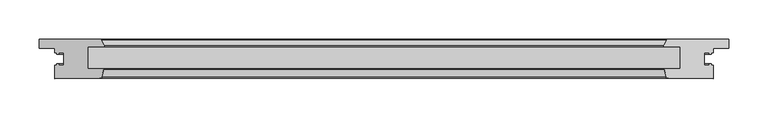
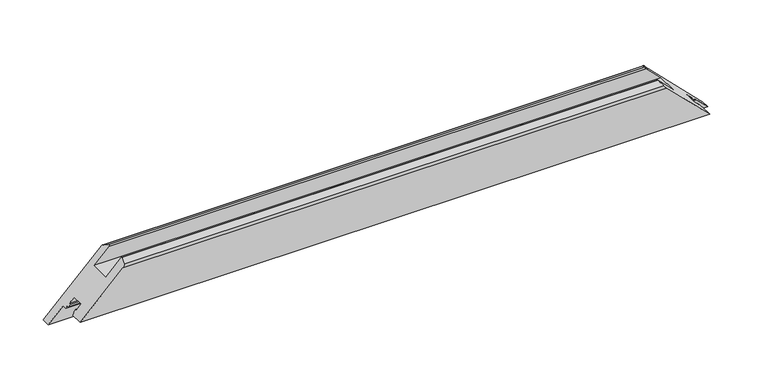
"""IFC4 building model written with IfcOpenShell, lengths in millimetres: proxy geometry, Weiku - Montante - Folha 02.2.01.017 : Weiku - Montante - Folha 02.2.01.017."""

import ifcopenshell
import ifcopenshell.guid

model = None  # the IFC model being written
_history = None  # IfcOwnerHistory: only IFC2X3 demands one
_inside = {}  # id of a spatial element -> (the spatial element, [elements in it])
_under = {}  # id of a project, library or spatial element -> (it, [spatial elements below it])
_declared = {}  # id of a project -> (the project, [libraries it declares])
_typed = {}  # id of a type object -> (the type object, [elements of that type])
_made_of = {}  # id of a material, layer set ... -> (it, [elements and type objects made of it])


def new_model(schema):
    """Start an empty IFC model of exactly this schema.

    Asked for "IFC4X3", IfcOpenShell would pick the latest addendum, in which some entities
    have other attributes; the version numbers below select the first issue.
    IFC2X3 requires an IfcOwnerHistory on every rooted entity: one is made here for all.
    """
    global model, _history
    if schema == "IFC4X3":
        model = ifcopenshell.file(schema_version=(4, 3, 0, 0))
    else:
        model = ifcopenshell.file(schema=schema)
    _inside.clear()
    _under.clear()
    _declared.clear()
    _typed.clear()
    _made_of.clear()
    _history = None
    if model.schema == "IFC2X3":
        org = make("IfcOrganization", Name="unknown")
        user = make(
            "IfcPersonAndOrganization",
            ThePerson=make("IfcPerson", FamilyName="unknown"),
            TheOrganization=org,
        )
        app = make(
            "IfcApplication",
            ApplicationDeveloper=org,
            Version="unknown",
            ApplicationFullName="unknown",
            ApplicationIdentifier="unknown",
        )
        _history = make(
            "IfcOwnerHistory",
            OwningUser=user,
            OwningApplication=app,
            ChangeAction="ADDED",
            CreationDate=0,
        )
    return model


def make(cls, **values):
    """One entity of the class cls with the attributes given. An attribute that is None is left unset."""
    return model.create_entity(
        cls, **{name: value for name, value in values.items() if value is not None}
    )


def rooted(cls, **values):
    """An entity with a GlobalId (a new one), such as an element, a storey or a relation."""
    return make(cls, GlobalId=ifcopenshell.guid.new(), OwnerHistory=_history, **values)


def si_unit(unit_type, name, prefix=None):
    """IfcSIUnit, for example si_unit("LENGTHUNIT", "METRE", prefix="MILLI")."""
    return make("IfcSIUnit", UnitType=unit_type, Prefix=prefix, Name=name)


def assignment(units):
    """IfcUnitAssignment: the units of a project."""
    return None if units is None else make("IfcUnitAssignment", Units=units)


def point(xyz):
    """IfcCartesianPoint."""
    return None if xyz is None else make("IfcCartesianPoint", Coordinates=xyz)


def direction(xyz):
    """IfcDirection."""
    return None if xyz is None else make("IfcDirection", DirectionRatios=xyz)


def frame(location, z_axis=None, x_axis=None):
    """IfcAxis2Placement3D, a coordinate frame: its origin and axes. An axis left out is left unset."""
    return make(
        "IfcAxis2Placement3D",
        Location=point(location),
        Axis=direction(z_axis),
        RefDirection=direction(x_axis),
    )


def origin():
    """The frame at (0, 0, 0) with its axes left unset."""
    return frame((0.0, 0.0, 0.0))


def place(relative_to, where):
    """IfcLocalPlacement: puts the frame where relative to a parent placement (None: the world)."""
    return make(
        "IfcLocalPlacement", PlacementRelTo=relative_to, RelativePlacement=where
    )


def context(
    kind, dimensions, precision=None, world=None, true_north=None, identifier=None
):
    """IfcGeometricRepresentationContext, for example the 3D "Model" context."""
    return make(
        "IfcGeometricRepresentationContext",
        ContextIdentifier=identifier,
        ContextType=kind,
        CoordinateSpaceDimension=dimensions,
        Precision=precision,
        WorldCoordinateSystem=world,
        TrueNorth=true_north,
    )


def project(units=None, contexts=None):
    """IfcProject with its units and contexts."""
    return rooted(
        "IfcProject",
        Name="project",
        RepresentationContexts=contexts,
        UnitsInContext=assignment(units),
    )


def spatial(cls, under=None, at=None, **own):
    """A site, building, storey or space (cls), placed at a placement, below another one or the project."""
    s = rooted(cls, ObjectPlacement=at, **own)
    if under is not None:
        _under.setdefault(under.id(), (under, []))[1].append(s)
    return s


def ellipse_curve(where, semi_axis1, semi_axis2):
    """IfcEllipse in the frame where."""
    return make(
        "IfcEllipse", Position=where, SemiAxis1=semi_axis1, SemiAxis2=semi_axis2
    )


def shape(context_of_items, identifier, shape_type, items):
    """IfcShapeRepresentation: the items that make up one representation, for example the "Body"."""
    return make(
        "IfcShapeRepresentation",
        ContextOfItems=context_of_items,
        RepresentationIdentifier=identifier,
        RepresentationType=shape_type,
        Items=items,
    )


def source(mapping_origin, context_of_items, identifier, shape_type, items):
    """IfcRepresentationMap: a shape defined once, which mapped items show again and again."""
    return make(
        "IfcRepresentationMap",
        MappingOrigin=mapping_origin,
        MappedRepresentation=shape(context_of_items, identifier, shape_type, items),
    )


def transform(
    local_origin,
    x_axis=None,
    y_axis=None,
    z_axis=None,
    scale=None,
    scale2=None,
    scale3=None,
    uniform=True,
):
    """IfcCartesianTransformationOperator3D, or its non-uniform kind. x_axis, y_axis, z_axis: its Axis1, 2, 3."""
    if uniform:
        return make(
            "IfcCartesianTransformationOperator3D",
            Axis1=direction(x_axis),
            Axis2=direction(y_axis),
            LocalOrigin=point(local_origin),
            Scale=scale,
            Axis3=direction(z_axis),
        )
    return make(
        "IfcCartesianTransformationOperator3DnonUniform",
        Axis1=direction(x_axis),
        Axis2=direction(y_axis),
        LocalOrigin=point(local_origin),
        Scale=scale,
        Axis3=direction(z_axis),
        Scale2=scale2,
        Scale3=scale3,
    )


def mapped(mapping_source, mapping_target):
    """IfcMappedItem: shows the shape of a source again, moved by a transform."""
    return make(
        "IfcMappedItem", MappingSource=mapping_source, MappingTarget=mapping_target
    )


def made_of(thing, what):
    """Note that an element or type object is made of a material, layer set ...; save() writes the relation."""
    if what is not None:
        _made_of.setdefault(what.id(), (what, []))[1].append(thing)
    return thing


def element(
    cls,
    number,
    at=None,
    inside=None,
    cuts=None,
    type_object=None,
    material=None,
    context=None,
    identifier="Body",
    shape_type=None,
    held_by="IfcProductDefinitionShape",
    body=None,
    shapes=None,
    **own,
):
    """One element of the class cls, such as IfcWall. Its Tag is "e" and its number.

    at: its placement. inside: the storey or other place that contains it. cuts: it is an
    opening in that element (IfcRelVoidsElement). A single representation is given by context,
    identifier, shape_type and body (its items); several are given by shapes. held_by: the class
    of the entity that holds the representations. save() writes the other relations.
    """
    e = rooted(cls, Tag="e%d" % number, ObjectPlacement=at, **own)
    if body is not None:
        shapes = [shape(context, identifier, shape_type, body)]
    if shapes is not None:
        e.Representation = make(held_by, Representations=shapes)
    if inside is not None:
        _inside.setdefault(inside.id(), (inside, []))[1].append(e)
    if cuts is not None:
        rooted(
            "IfcRelVoidsElement", RelatingBuildingElement=cuts, RelatedOpeningElement=e
        )
    if type_object is not None:
        _typed.setdefault(type_object.id(), (type_object, []))[1].append(e)
    return made_of(e, material)


def aggregate(whole, parts):
    """IfcRelAggregates: a whole, such as a stair, and the parts it consists of."""
    return rooted("IfcRelAggregates", RelatingObject=whole, RelatedObjects=parts)


def save(model, path):
    """Write the relations noted so far, then the file.

    IfcRelAggregates (storeys below a building ...), IfcRelContainedInSpatialStructure (elements
    in a storey), IfcRelDefinesByType, IfcRelAssociatesMaterial and IfcRelDeclares: one each for
    every whole, place, type object, material and project.
    """
    for whole, parts in _under.values():
        aggregate(whole, parts)
    for where, things in _inside.values():
        rooted(
            "IfcRelContainedInSpatialStructure",
            RelatedElements=things,
            RelatingStructure=where,
        )
    for kind, things in _typed.values():
        rooted("IfcRelDefinesByType", RelatedObjects=things, RelatingType=kind)
    for what, things in _made_of.values():
        rooted("IfcRelAssociatesMaterial", RelatedObjects=things, RelatingMaterial=what)
    for by, libraries in _declared.values():
        rooted("IfcRelDeclares", RelatingContext=by, RelatedDefinitions=libraries)
    model.write(path)


def plane_surface(at):
    """IfcPlane: the flat surface through the origin of the frame at, square to its z axis."""
    return make("IfcPlane", Position=at)


def cylinder_surface(at, radius):
    """IfcCylindricalSurface: all points at the distance radius from the z axis of the frame at."""
    return make("IfcCylindricalSurface", Position=at, Radius=radius)


def advanced_brep(points, edges, surfaces, faces):
    """IfcAdvancedBrep: a solid bounded by faces that lie on surfaces and meet in shared edges.

    An edge is (start, end): straight between two places in points (the first is 0);
    or (start, end, curve); or (start, end, curve, False) where it runs against its curve.
    A face is (place in surfaces, loops), or (place, loops, False) where it looks against
    its surface's normal. A loop lists edges by number (the first is 1), with a minus sign
    where the edge is run from its end to its start. The first loop is the outer one.
    """
    corners = [point(p) for p in points]
    vertices = [make("IfcVertexPoint", VertexGeometry=c) for c in corners]
    made = []
    for start, end, *more in edges:
        made.append(
            make(
                "IfcEdgeCurve",
                EdgeStart=vertices[start],
                EdgeEnd=vertices[end],
                EdgeGeometry=more[0] if more else make("IfcPolyline", Points=[corners[start], corners[end]]),
                SameSense=more[1] if len(more) > 1 else True,
            )
        )
    hull = []
    for where, loops, *sense in faces:
        bounds = []
        for j, loop in enumerate(loops):
            ring = [make("IfcOrientedEdge", EdgeElement=made[abs(k) - 1], Orientation=k > 0) for k in loop]
            bounds.append(
                make(
                    "IfcFaceOuterBound" if j == 0 else "IfcFaceBound",
                    Bound=make("IfcEdgeLoop", EdgeList=ring),
                    Orientation=True,
                )
            )
        hull.append(make("IfcAdvancedFace", Bounds=bounds, FaceSurface=surfaces[where], SameSense=sense[0] if sense else True))
    return make("IfcAdvancedBrep", Outer=make("IfcClosedShell", CfsFaces=hull))


def generic_models_b2a0b80b(model_context):
    return source(origin(), model_context, "Body", "AdvancedBrep", [
        advanced_brep(
        [(-419.1818182, -50.0, 20.0), (419.1818182, -50.0, 20.0), (362.1815514, -50.0, 77.0002668), (-362.1815514, -50.0, 77.0002668), (-439.1818182, 0.0, 0.0), (-361.1690446, 0.0, 78.0127736), (361.1690446, 0.0, 78.0127736), (439.1818182, 0.0, 0.0), (-359.2837739, -47.7764571, 79.8980443), (-356.6988553, -38.1294095, 82.4829629), (-357.1818182, -37.5, 82.0), (-377.6818182, -37.5, 61.5), (-377.6818182, -9.5, 61.5), (-357.8952467, -9.5, 81.2865715), (-356.7330978, -7.617411, 82.4487204), (-360.2750839, -0.5518546, 78.9067343), (-439.1818182, -11.5, 0.0), (-419.1818182, -11.5, 20.0), (-419.1818182, -16.9, 20.0), (-416.9818182, -16.9, 22.2), (-416.9818182, -18.9, 22.2), (-414.1818182, -18.9, 25.0), (-414.1818182, -16.9, 25.0), (-407.6818182, -16.9, 31.5), (-407.6818182, -33.1, 31.5), (-414.1818182, -33.1, 25.0), (-414.1818182, -31.1, 25.0), (-416.9818182, -31.1, 22.2), (-416.9818182, -33.1, 22.2), (-419.1818182, -33.1, 20.0), (419.1818182, -33.1, 20.0), (416.9818182, -33.1, 22.2), (416.9818182, -31.1, 22.2), (414.1818182, -31.1, 25.0), (414.1818182, -33.1, 25.0), (407.6818182, -33.1, 31.5), (407.6818182, -16.9, 31.5), (414.1818182, -16.9, 25.0), (414.1818182, -18.9, 25.0), (416.9818182, -18.9, 22.2), (416.9818182, -16.9, 22.2), (419.1818182, -16.9, 20.0), (419.1818182, -11.5, 20.0), (439.1818182, -11.5, 0.0), (360.2750839, -0.5518546, 78.9067343), (356.7330978, -7.617411, 82.4487204), (357.8952467, -9.5, 81.2865715), (377.6818182, -9.5, 61.5), (377.6818182, -37.5, 61.5), (357.1818182, -37.5, 82.0), (356.6988553, -38.1294095, 82.4829629), (359.2837739, -47.7764571, 79.8980443)],
        [
            (0, 1),
            (1, 2),
            (2, 3),
            (3, 0),
            (4, 5),
            (5, 6),
            (6, 7),
            (7, 4),
            (3, 8, ellipse_curve(frame((-362.1815514, -47.0, 77.0002668), z_axis=(-0.7071067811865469, 0.0, 0.7071067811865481), x_axis=(-0.7071067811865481, 0.0, -0.7071067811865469)), 4.2426407, 3.0)),
            (8, 9),
            (9, 10, ellipse_curve(frame((-357.1818182, -38.0, 82.0), z_axis=(-0.7071067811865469, 0.0, 0.7071067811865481), x_axis=(-0.7071067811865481, 0.0, -0.7071067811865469)), 0.7071068, 0.5)),
            (10, 11),
            (11, 12),
            (12, 13),
            (13, 14, ellipse_curve(frame((-357.8952467, -8.2, 81.2865715), z_axis=(-0.7071067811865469, 0.0, 0.7071067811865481), x_axis=(-0.7071067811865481, 0.0, -0.7071067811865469)), 1.8384776, 1.3)),
            (14, 15),
            (15, 5, ellipse_curve(frame((-361.1690446, -1.0, 78.0127736), z_axis=(-0.7071067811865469, 0.0, 0.7071067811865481), x_axis=(-0.7071067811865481, 0.0, -0.7071067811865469)), 1.4142136, 1.0)),
            (4, 16),
            (16, 17),
            (17, 18),
            (18, 19),
            (19, 20),
            (20, 21),
            (21, 22),
            (22, 23),
            (23, 24),
            (24, 25),
            (25, 26),
            (26, 27),
            (27, 28),
            (28, 29),
            (29, 0),
            (1, 30),
            (30, 31),
            (31, 32),
            (32, 33),
            (33, 34),
            (34, 35),
            (35, 36),
            (36, 37),
            (37, 38),
            (38, 39),
            (39, 40),
            (40, 41),
            (41, 42),
            (42, 43),
            (43, 7),
            (6, 44, ellipse_curve(frame((361.1690446, -1.0, 78.0127736), z_axis=(0.7071067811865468, 0.0, 0.7071067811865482), x_axis=(-0.7071067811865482, 0.0, 0.7071067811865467)), 1.4142136, 1.0)),
            (44, 45),
            (45, 46, ellipse_curve(frame((357.8952467, -8.2, 81.2865715), z_axis=(0.7071067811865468, 0.0, 0.7071067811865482), x_axis=(-0.7071067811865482, 0.0, 0.7071067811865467)), 1.8384776, 1.3)),
            (46, 47),
            (47, 48),
            (48, 49),
            (49, 50, ellipse_curve(frame((357.1818182, -38.0, 82.0), z_axis=(0.7071067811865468, 0.0, 0.7071067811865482), x_axis=(-0.7071067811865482, 0.0, 0.7071067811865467)), 0.7071068, 0.5)),
            (50, 51),
            (51, 2, ellipse_curve(frame((362.1815514, -47.0, 77.0002668), z_axis=(0.7071067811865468, 0.0, 0.7071067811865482), x_axis=(-0.7071067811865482, 0.0, 0.7071067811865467)), 4.2426407, 3.0)),
            (15, 44),
            (14, 45),
            (13, 46),
            (12, 47),
            (11, 48),
            (10, 49),
            (9, 50),
            (8, 51),
            (29, 30),
            (28, 31),
            (27, 32),
            (26, 33),
            (25, 34),
            (24, 35),
            (23, 36),
            (22, 37),
            (21, 38),
            (20, 39),
            (19, 40),
            (18, 41),
            (17, 42),
            (16, 43),
        ],
        [
            plane_surface(frame((-439.1818182, -50.0, 77.0002668), z_axis=(0.0, -1.0, 0.0), x_axis=(1.0, 0.0, 0.0))),
            plane_surface(frame((-439.1818182, 0.0, 0.0), z_axis=(0.0, 1.0, 0.0), x_axis=(1.0, 0.0, 0.0))),
            plane_surface(frame((-467.4660894, 0.0, -28.2842712), z_axis=(-0.7071067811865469, 0.0, 0.7071067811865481), x_axis=(0.0, -1.0, 0.0))),
            plane_surface(frame((349.1818182, 0.0, 90.0), z_axis=(0.7071067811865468, 0.0, 0.7071067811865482), x_axis=(0.0, -1.0, 0.0))),
            cylinder_surface(frame((-439.1818182, -1.0, 78.0127736), z_axis=(-1.0, 0.0, 0.0), x_axis=(0.0, -1.0, 0.0)), 1.0),
            plane_surface(frame((-439.1818182, -0.5518546, 78.9067343), z_axis=(0.0, 0.4481453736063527, 0.8939606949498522), x_axis=(1.0, 0.0, 0.0))),
            cylinder_surface(frame((-439.1818182, -8.2, 81.2865715), z_axis=(-1.0, 0.0, 0.0), x_axis=(0.0, -1.0, 0.0)), 1.3),
            plane_surface(frame((-439.1818182, -9.5, 81.2865715), z_axis=(0.0, -1.0, 0.0), x_axis=(1.0, 0.0, 0.0))),
            plane_surface(frame((-439.1818182, -9.5, 61.5), z_axis=(0.0, 0.0, 1.0), x_axis=(1.0, 0.0, 0.0))),
            plane_surface(frame((-439.1818182, -37.5, 61.5), z_axis=(0.0, 1.0, 0.0), x_axis=(1.0, 0.0, 0.0))),
            cylinder_surface(frame((-439.1818182, -38.0, 82.0), z_axis=(-1.0, 0.0, 0.0), x_axis=(0.0, -1.0, 0.0)), 0.5),
            plane_surface(frame((-439.1818182, -38.1294095, 82.4829629), z_axis=(0.0, -0.2588190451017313, 0.9659258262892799), x_axis=(1.0, 0.0, 0.0))),
            cylinder_surface(frame((-439.1818182, -47.0, 77.0002668), z_axis=(-1.0, 0.0, 0.0), x_axis=(0.0, -1.0, 0.0)), 3.0),
            plane_surface(frame((-439.1818182, -50.0, 20.0), z_axis=(0.0, 0.0, -1.0), x_axis=(1.0, 0.0, 0.0))),
            plane_surface(frame((-439.1818182, -33.1, 20.0), z_axis=(0.0, 1.0, 0.0), x_axis=(1.0, 0.0, 0.0))),
            plane_surface(frame((-439.1818182, -33.1, 22.2), z_axis=(0.0, 0.0, -1.0), x_axis=(1.0, 0.0, 0.0))),
            plane_surface(frame((-439.1818182, -31.1, 22.2), z_axis=(0.0, 1.0, 0.0), x_axis=(1.0, 0.0, 0.0))),
            plane_surface(frame((-439.1818182, -31.1, 25.0), z_axis=(0.0, 0.0, 1.0), x_axis=(1.0, 0.0, 0.0))),
            plane_surface(frame((-439.1818182, -33.1, 25.0), z_axis=(0.0, 1.0, 0.0), x_axis=(1.0, 0.0, 0.0))),
            plane_surface(frame((-439.1818182, -33.1, 31.5), z_axis=(0.0, 0.0, -1.0), x_axis=(1.0, 0.0, 0.0))),
            plane_surface(frame((-439.1818182, -16.9, 31.5), z_axis=(0.0, -1.0, 0.0), x_axis=(1.0, 0.0, 0.0))),
            plane_surface(frame((-439.1818182, -16.9, 25.0), z_axis=(0.0, 0.0, 1.0), x_axis=(1.0, 0.0, 0.0))),
            plane_surface(frame((-439.1818182, -18.9, 25.0), z_axis=(0.0, -1.0, 0.0), x_axis=(1.0, 0.0, 0.0))),
            plane_surface(frame((-439.1818182, -18.9, 22.2), z_axis=(0.0, 0.0, -1.0), x_axis=(1.0, 0.0, 0.0))),
            plane_surface(frame((-439.1818182, -16.9, 22.2), z_axis=(0.0, -1.0, 0.0), x_axis=(1.0, 0.0, 0.0))),
            plane_surface(frame((-439.1818182, -16.9, 20.0), z_axis=(0.0, 0.0, -1.0), x_axis=(1.0, 0.0, 0.0))),
            plane_surface(frame((-439.1818182, -11.5, 20.0), z_axis=(0.0, -1.0, 0.0), x_axis=(1.0, 0.0, 0.0))),
            plane_surface(frame((-439.1818182, -11.5, 0.0), z_axis=(0.0, 0.0, -1.0), x_axis=(1.0, 0.0, 0.0))),
        ],
        [
            (0, [[1, 2, 3, 4]]),
            (1, [[5, 6, 7, 8]]),
            (2, [[9, 10, 11, 12, 13, 14, 15, 16, 17, -5, 18, 19, 20, 21, 22, 23, 24, 25, 26, 27, 28, 29, 30, 31, 32, -4]]),
            (3, [[33, 34, 35, 36, 37, 38, 39, 40, 41, 42, 43, 44, 45, 46, 47, -7, 48, 49, 50, 51, 52, 53, 54, 55, 56, -2]]),
            (4, [[57, -48, -6, -17]]),
            (5, [[58, -49, -57, -16]]),
            (6, [[59, -50, -58, -15]]),
            (7, [[60, -51, -59, -14]]),
            (8, [[61, -52, -60, -13]]),
            (9, [[62, -53, -61, -12]]),
            (10, [[63, -54, -62, -11]]),
            (11, [[64, -55, -63, -10]]),
            (12, [[-3, -56, -64, -9]]),
            (13, [[65, -33, -1, -32]]),
            (14, [[66, -34, -65, -31]]),
            (15, [[67, -35, -66, -30]]),
            (16, [[68, -36, -67, -29]]),
            (17, [[69, -37, -68, -28]]),
            (18, [[70, -38, -69, -27]]),
            (19, [[71, -39, -70, -26]]),
            (20, [[72, -40, -71, -25]]),
            (21, [[73, -41, -72, -24]]),
            (22, [[74, -42, -73, -23]]),
            (23, [[75, -43, -74, -22]]),
            (24, [[76, -44, -75, -21]]),
            (25, [[77, -45, -76, -20]]),
            (26, [[-46, -77, -19, 78]]),
            (27, [[-47, -78, -18, -8]]),
        ],
    ),
    ])


if __name__ == "__main__":
    model = new_model("IFC4")
    model_context = context("Model", 3, world=origin())
    ifc_project = project(units=[si_unit("LENGTHUNIT", "METRE", prefix="MILLI")], contexts=[model_context])
    site = spatial("IfcSite", under=ifc_project)
    building = spatial("IfcBuilding", under=site)
    placement = place(None, origin())
    generic_models_shape = generic_models_b2a0b80b(model_context)
    element("IfcBuildingElementProxy", 1, Name="Weiku - Montante - Folha 02.2.01.017 : Weiku - Montante - Folha 02.2.01.017", ObjectType="Weiku - Montante - Folha 02.2.01.017 : Weiku - Montante - Folha 02.2.01.017", at=placement, inside=building, context=model_context, shape_type="MappedRepresentation", body=[
        mapped(generic_models_shape, transform((0.0, 0.0, 0.0), x_axis=(1.0, 0.0, 0.0), y_axis=(0.0, 1.0, 0.0), z_axis=(0.0, 0.0, 1.0))),
    ])
    save(model, "model.ifc")
